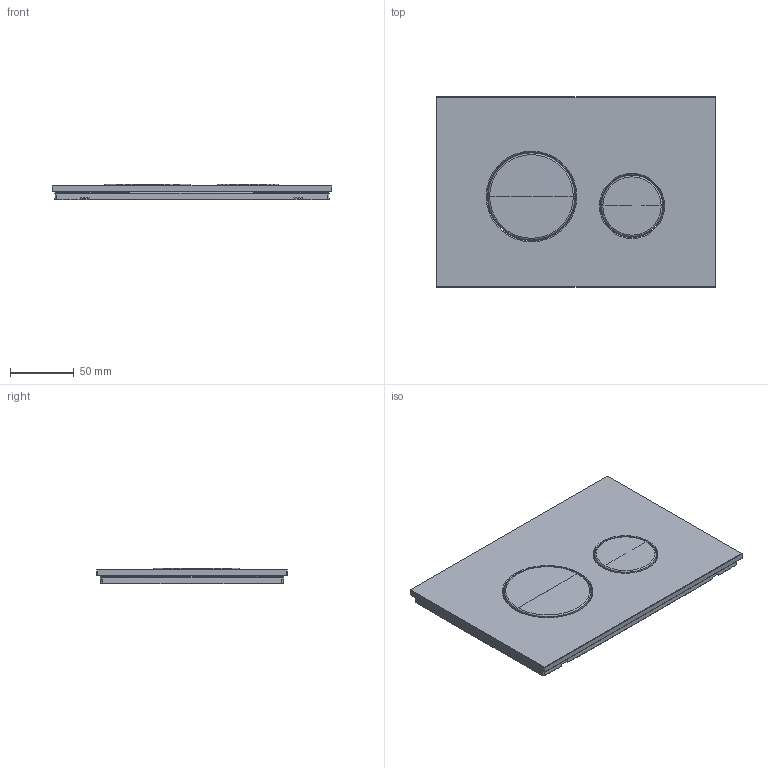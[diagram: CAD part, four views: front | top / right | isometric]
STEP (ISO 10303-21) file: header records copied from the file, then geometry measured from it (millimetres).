
FILE_DESCRIPTION((''),'2;1');
FILE_NAME('9_240_650_ASM','2010-11-15T',('mmeiser'),('NET'),'PRO/ENGINEER BY PARAMETRIC TECHNOLOGY CORPORATION, 2010230','PRO/ENGINEER BY PARAMETRIC TECHNOLOGY CORPORATION, 2010230','');
FILE_SCHEMA(('AUTOMOTIVE_DESIGN_CC2 { 1 2 10303 214 -1 1 5 2 }'));
Products named in the file (7): SP860_003_00_AF0; SP860_004_00_AF0; SP869_001_00_AF0_ASM; SP860_001_00_AF0; SP860_006_01; VP210_232_00_AF0_ASM; 9_240_650_ASM
Assembly tree (6 placements, depth 3):
  9_240_650_ASM
    SP869_001_00_AF0_ASM
      SP860_003_00_AF0
      SP860_004_00_AF0
    VP210_232_00_AF0_ASM
      SP860_001_00_AF0
      SP860_006_01
Bounding box: 220 x 150 x 12.06 mm (x, y, z)
Volume: 247224.3 mm3; surface area: 136759.3 mm2
Topology: 4 solids, 4 shells, 1186 faces, 2920 edges, 1751 vertices
Faces by surface type: cylinder 350, bspline 320, plane 296, cone 102, torus 82, sphere 36
Entity records: 55662 total; most frequent: CARTESIAN_POINT 24369, ORIENTED_EDGE 5824, DIRECTION 4476, EDGE_CURVE 2912, PRESENTATION_STYLE_ASSIGNMENT 1995, STYLED_ITEM 1995, CURVE_STYLE 1992, AXIS2_PLACEMENT_3D 1753
